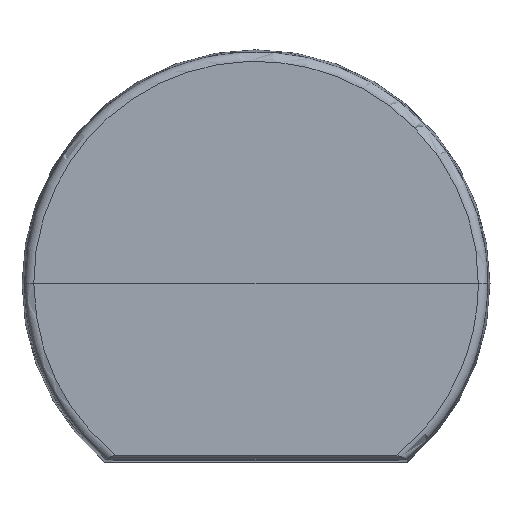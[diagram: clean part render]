
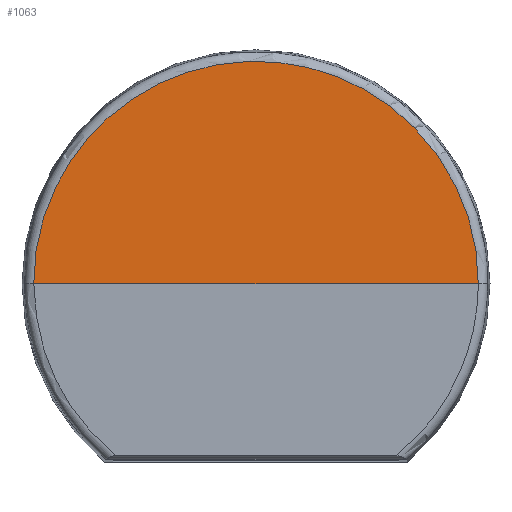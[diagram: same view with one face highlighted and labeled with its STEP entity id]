
A CAD part, top view. The second image highlights one B-rep face of the part: STEP entity #1063.
In plain terms, the highlighted planar face has unit normal (0, 0, 1).
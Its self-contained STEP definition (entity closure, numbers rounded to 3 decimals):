
#42=B_SPLINE_CURVE_WITH_KNOTS('',3,(#1980,#1981,#1982,#1983),
 .UNSPECIFIED.,.F.,.F.,(4,4),(0.857,1.),.UNSPECIFIED.);
#43=B_SPLINE_CURVE_WITH_KNOTS('',3,(#1985,#1986,#1987,#1988,#1989,#1990,
#1991,#1992),.UNSPECIFIED.,.F.,.F.,(4,1,1,1,1,4),(0.143,0.286,
0.429,0.571,0.714,0.857),
 .UNSPECIFIED.);
#44=B_SPLINE_CURVE_WITH_KNOTS('',3,(#1993,#1994,#1995,#1996),
 .UNSPECIFIED.,.F.,.F.,(4,4),(0.,0.143),.UNSPECIFIED.);
#160=FACE_OUTER_BOUND('',#226,.T.);
#226=EDGE_LOOP('',(#922,#923,#924,#925));
#331=LINE('',#1998,#432);
#432=VECTOR('',#1419,304.8);
#528=VERTEX_POINT('',#1815);
#531=VERTEX_POINT('',#1891);
#533=VERTEX_POINT('',#1979);
#534=VERTEX_POINT('',#1984);
#672=EDGE_CURVE('',#533,#531,#42,.T.);
#673=EDGE_CURVE('',#534,#533,#43,.T.);
#674=EDGE_CURVE('',#528,#534,#44,.T.);
#675=EDGE_CURVE('',#531,#528,#331,.T.);
#922=ORIENTED_EDGE('',*,*,#674,.T.);
#923=ORIENTED_EDGE('',*,*,#673,.T.);
#924=ORIENTED_EDGE('',*,*,#672,.T.);
#925=ORIENTED_EDGE('',*,*,#675,.T.);
#1004=PLANE('',#1152);
#1063=ADVANCED_FACE('',(#160),#1004,.F.);
#1152=AXIS2_PLACEMENT_3D('',#1999,#1420,#1421);
#1419=DIRECTION('',(1.,0.,0.));
#1420=DIRECTION('center_axis',(0.,0.,-1.));
#1421=DIRECTION('ref_axis',(-1.,0.,0.));
#1815=CARTESIAN_POINT('',(47.483,0.,32.));
#1891=CARTESIAN_POINT('',(-47.483,0.,32.));
#1979=CARTESIAN_POINT('',(-42.78,20.602,32.));
#1980=CARTESIAN_POINT('Ctrl Pts',(-42.78,20.602,32.));
#1981=CARTESIAN_POINT('Ctrl Pts',(-45.889,14.217,32.));
#1982=CARTESIAN_POINT('Ctrl Pts',(-47.586,7.152,32.));
#1983=CARTESIAN_POINT('Ctrl Pts',(-47.483,0.,
32.));
#1984=CARTESIAN_POINT('',(42.78,20.602,32.));
#1985=CARTESIAN_POINT('Ctrl Pts',(42.78,20.602,32.));
#1986=CARTESIAN_POINT('Ctrl Pts',(39.671,26.987,32.));
#1987=CARTESIAN_POINT('Ctrl Pts',(30.629,38.397,32.));
#1988=CARTESIAN_POINT('Ctrl Pts',(10.922,47.871,32.));
#1989=CARTESIAN_POINT('Ctrl Pts',(-10.922,47.871,32.));
#1990=CARTESIAN_POINT('Ctrl Pts',(-30.629,38.397,32.));
#1991=CARTESIAN_POINT('Ctrl Pts',(-39.671,26.987,32.));
#1992=CARTESIAN_POINT('Ctrl Pts',(-42.78,20.602,32.));
#1993=CARTESIAN_POINT('Ctrl Pts',(47.483,0.,
32.));
#1994=CARTESIAN_POINT('Ctrl Pts',(47.586,7.152,32.));
#1995=CARTESIAN_POINT('Ctrl Pts',(45.889,14.217,32.));
#1996=CARTESIAN_POINT('Ctrl Pts',(42.78,20.602,32.));
#1998=CARTESIAN_POINT('',(-47.483,0.,32.));
#1999=CARTESIAN_POINT('Origin',(0.,0.,32.));
